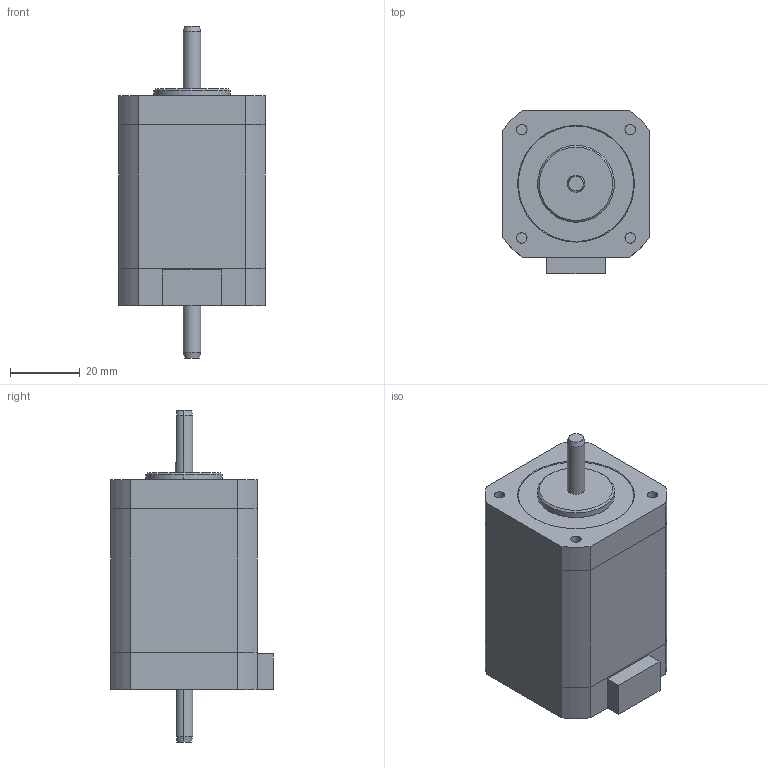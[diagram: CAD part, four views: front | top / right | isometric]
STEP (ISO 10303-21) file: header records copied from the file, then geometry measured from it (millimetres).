
FILE_DESCRIPTION (( 'STEP AP203' ), '1' );
FILE_NAME ('PMSB-仭42D5仭D_3D.STEP', '2021-01-22T07:40:48', ( '' ), ( '' ), 'SwSTEP 2.0', 'SolidWorks 2018', '' );
FILE_SCHEMA (( 'CONFIG_CONTROL_DESIGN' ));
Length unit declared in the file: millimetre
Products named in the file (1): PMSB-仭42D5仭D_3D
Bounding box: 42 x 46.6 x 95 mm (x, y, z)
Volume: 104306.9 mm3; surface area: 20929.5 mm2
Topology: 4 solids, 4 shells, 72 faces, 162 edges, 106 vertices
Faces by surface type: plane 35, cylinder 27, cone 10
Entity records: 2117 total; most frequent: DIRECTION 372, CARTESIAN_POINT 369, ORIENTED_EDGE 324, EDGE_CURVE 162, AXIS2_PLACEMENT_3D 141, VERTEX_POINT 106, VECTOR 90, LINE 90
